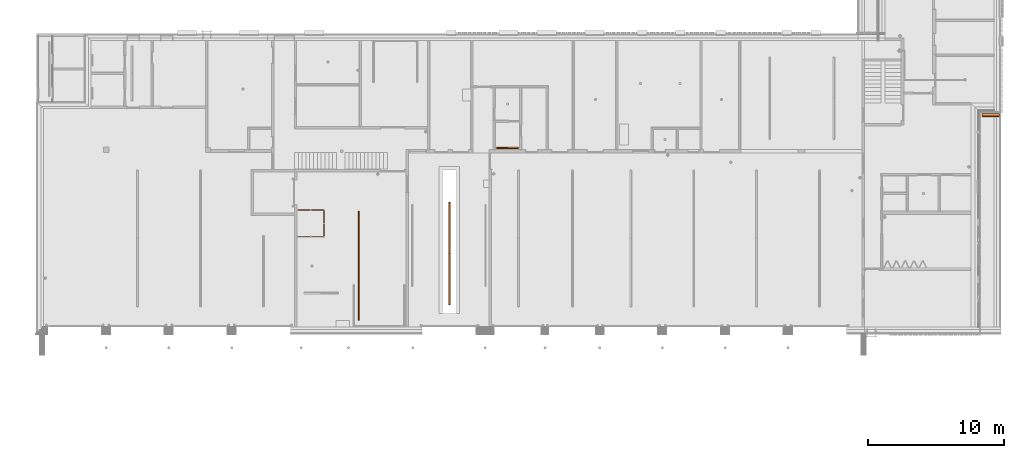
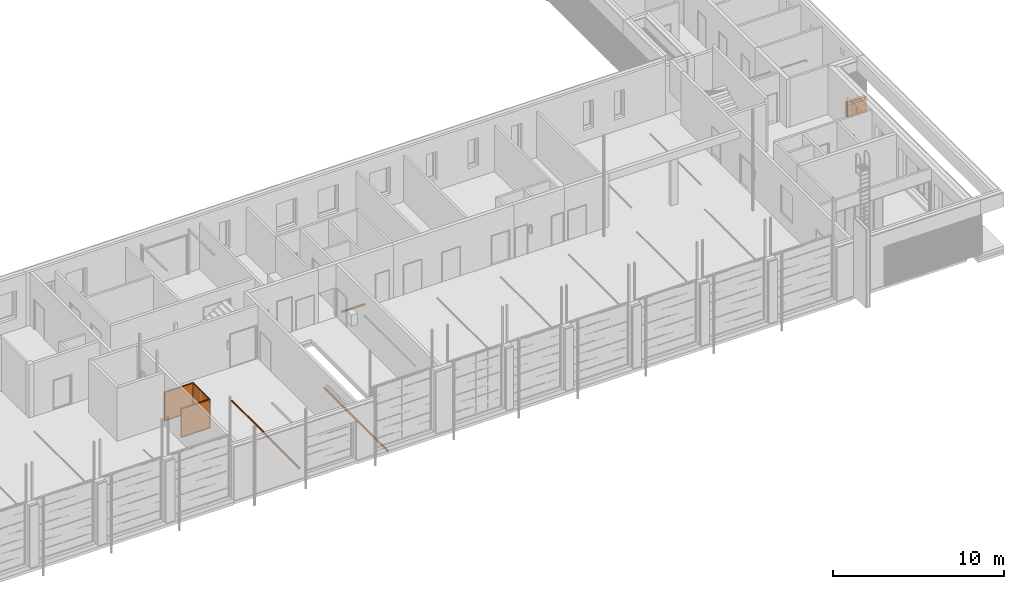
# One storey, part 104 of 112: 5 proxies.
"""IFC2X3 building model written with IfcOpenShell, lengths in millimetres."""

import ifcopenshell
import ifcopenshell.guid

model = None  # the IFC model being written
_history = None  # IfcOwnerHistory: only IFC2X3 demands one
_inside = {}  # id of a spatial element -> (the spatial element, [elements in it])
_under = {}  # id of a project, library or spatial element -> (it, [spatial elements below it])
_declared = {}  # id of a project -> (the project, [libraries it declares])
_typed = {}  # id of a type object -> (the type object, [elements of that type])
_made_of = {}  # id of a material, layer set ... -> (it, [elements and type objects made of it])


def new_model(schema):
    """Start an empty IFC model of exactly this schema.

    Asked for "IFC4X3", IfcOpenShell would pick the latest addendum, in which some entities
    have other attributes; the version numbers below select the first issue.
    IFC2X3 requires an IfcOwnerHistory on every rooted entity: one is made here for all.
    """
    global model, _history
    if schema == "IFC4X3":
        model = ifcopenshell.file(schema_version=(4, 3, 0, 0))
    else:
        model = ifcopenshell.file(schema=schema)
    _inside.clear()
    _under.clear()
    _declared.clear()
    _typed.clear()
    _made_of.clear()
    _history = None
    if model.schema == "IFC2X3":
        org = make("IfcOrganization", Name="unknown")
        user = make(
            "IfcPersonAndOrganization",
            ThePerson=make("IfcPerson", FamilyName="unknown"),
            TheOrganization=org,
        )
        app = make(
            "IfcApplication",
            ApplicationDeveloper=org,
            Version="unknown",
            ApplicationFullName="unknown",
            ApplicationIdentifier="unknown",
        )
        _history = make(
            "IfcOwnerHistory",
            OwningUser=user,
            OwningApplication=app,
            ChangeAction="ADDED",
            CreationDate=0,
        )
    return model


def make(cls, **values):
    """One entity of the class cls with the attributes given. An attribute that is None is left unset."""
    return model.create_entity(
        cls, **{name: value for name, value in values.items() if value is not None}
    )


def entity(cls, *values):
    """Any entity or typed value of the class cls, its attributes in the order of the schema. None: left unset."""
    e = model.create_entity(cls)
    for i, value in enumerate(values):
        if value is not None:
            e[i] = value
    return e


def rooted(cls, **values):
    """An entity with a GlobalId (a new one), such as an element, a storey or a relation."""
    return make(cls, GlobalId=ifcopenshell.guid.new(), OwnerHistory=_history, **values)


def si_unit(unit_type, name, prefix=None):
    """IfcSIUnit, for example si_unit("LENGTHUNIT", "METRE", prefix="MILLI")."""
    return make("IfcSIUnit", UnitType=unit_type, Prefix=prefix, Name=name)


def converted_unit(unit_type, name, factor, base, dimensions=None, offset=None):
    """IfcConversionBasedUnit, such as the inch: factor (a typed value) times the base unit."""
    return make(
        "IfcConversionBasedUnit"
        if offset is None
        else "IfcConversionBasedUnitWithOffset",
        ConversionOffset=offset,
        Dimensions=None
        if dimensions is None
        else entity("IfcDimensionalExponents", *dimensions),
        UnitType=unit_type,
        Name=name,
        ConversionFactor=make(
            "IfcMeasureWithUnit", ValueComponent=factor, UnitComponent=base
        ),
    )


def derived_unit(unit_type, elements):
    """IfcDerivedUnit: a product of units, each with its exponent."""
    return make(
        "IfcDerivedUnit",
        Elements=[
            make("IfcDerivedUnitElement", Unit=unit, Exponent=power)
            for unit, power in elements
        ],
        UnitType=unit_type,
    )


def money_unit(currency):
    """IfcMonetaryUnit."""
    return make("IfcMonetaryUnit", Currency=currency)


def assignment(units):
    """IfcUnitAssignment: the units of a project."""
    return None if units is None else make("IfcUnitAssignment", Units=units)


def point(xyz):
    """IfcCartesianPoint."""
    return None if xyz is None else make("IfcCartesianPoint", Coordinates=xyz)


def direction(xyz):
    """IfcDirection."""
    return None if xyz is None else make("IfcDirection", DirectionRatios=xyz)


def frame(location, z_axis=None, x_axis=None):
    """IfcAxis2Placement3D, a coordinate frame: its origin and axes. An axis left out is left unset."""
    return make(
        "IfcAxis2Placement3D",
        Location=point(location),
        Axis=direction(z_axis),
        RefDirection=direction(x_axis),
    )


def origin_with_axes():
    """The frame at (0, 0, 0) with the z axis (0, 0, 1) and the x axis (1, 0, 0) written out."""
    return frame((0.0, 0.0, 0.0), z_axis=(0.0, 0.0, 1.0), x_axis=(1.0, 0.0, 0.0))


def place(relative_to, where):
    """IfcLocalPlacement: puts the frame where relative to a parent placement (None: the world)."""
    return make(
        "IfcLocalPlacement", PlacementRelTo=relative_to, RelativePlacement=where
    )


def context(
    kind, dimensions, precision=None, world=None, true_north=None, identifier=None
):
    """IfcGeometricRepresentationContext, for example the 3D "Model" context."""
    return make(
        "IfcGeometricRepresentationContext",
        ContextIdentifier=identifier,
        ContextType=kind,
        CoordinateSpaceDimension=dimensions,
        Precision=precision,
        WorldCoordinateSystem=world,
        TrueNorth=true_north,
    )


def subcontext(parent, identifier, kind, view, scale=None):
    """IfcGeometricRepresentationSubContext, for example "Body" below "Model"."""
    return make(
        "IfcGeometricRepresentationSubContext",
        ContextIdentifier=identifier,
        ContextType=kind,
        ParentContext=parent,
        TargetScale=scale,
        TargetView=view,
    )


def project(units=None, contexts=None):
    """IfcProject with its units and contexts."""
    return rooted(
        "IfcProject",
        Name="project",
        RepresentationContexts=contexts,
        UnitsInContext=assignment(units),
    )


def spatial(cls, under=None, at=None, **own):
    """A site, building, storey or space (cls), placed at a placement, below another one or the project."""
    s = rooted(cls, ObjectPlacement=at, **own)
    if under is not None:
        _under.setdefault(under.id(), (under, []))[1].append(s)
    return s


def faces_of(points, faces, orient=None, outer=None):
    """IfcFace entities. A face is a list of loops; a loop is a list of indices into points, from 0.

    orient and outer hold one flag for each loop. By default every Orientation is true, the
    first loop of a face is its IfcFaceOuterBound and the others are IfcFaceBound.
    """
    made = []
    for i, loops in enumerate(faces):
        bounds = []
        for j, loop in enumerate(loops):
            is_outer = j == 0 if outer is None else outer[i][j]
            bounds.append(
                make(
                    "IfcFaceOuterBound" if is_outer else "IfcFaceBound",
                    Bound=make("IfcPolyLoop", Polygon=[points[k] for k in loop]),
                    Orientation=True if orient is None else orient[i][j],
                )
            )
        made.append(make("IfcFace", Bounds=bounds))
    return made


def open_shell(faces, orient=None, outer=None):
    """The faces of one IfcOpenShell. surface_model builds it on its shared points."""
    return ("IfcOpenShell", faces, orient, outer)


def faceted_brep(points, faces, orient=None, outer=None, voids=None):
    """IfcFacetedBrep: a solid bounded by flat faces; with voids (closed shells), ...WithVoids."""
    shared = [point(p) for p in points]
    hull = make("IfcClosedShell", CfsFaces=faces_of(shared, faces, orient, outer))
    if voids is None:
        return make("IfcFacetedBrep", Outer=hull)
    return make(
        "IfcFacetedBrepWithVoids",
        Outer=hull,
        Voids=[
            make(cls, CfsFaces=faces_of(shared, fs, o, b)) for cls, fs, o, b in voids
        ],
    )


def surface_model(cls, points, shells):
    """IfcFaceBasedSurfaceModel or IfcShellBasedSurfaceModel (cls): surfaces that need not close."""
    shared = [point(p) for p in points]
    made = [make(c, CfsFaces=faces_of(shared, fs, o, b)) for c, fs, o, b in shells]
    if cls == "IfcFaceBasedSurfaceModel":
        return make(cls, FbsmFaces=made)
    return make(cls, SbsmBoundary=made)


def shape(context_of_items, identifier, shape_type, items):
    """IfcShapeRepresentation: the items that make up one representation, for example the "Body"."""
    return make(
        "IfcShapeRepresentation",
        ContextOfItems=context_of_items,
        RepresentationIdentifier=identifier,
        RepresentationType=shape_type,
        Items=items,
    )


def made_of(thing, what):
    """Note that an element or type object is made of a material, layer set ...; save() writes the relation."""
    if what is not None:
        _made_of.setdefault(what.id(), (what, []))[1].append(thing)
    return thing


def type_object(cls, material=None, **own):
    """A type object (cls), such as IfcWallType, which elements share."""
    return made_of(rooted(cls, **own), material)


def element(
    cls,
    number,
    at=None,
    inside=None,
    cuts=None,
    type_object=None,
    material=None,
    context=None,
    identifier="Body",
    shape_type=None,
    held_by="IfcProductDefinitionShape",
    body=None,
    shapes=None,
    **own,
):
    """One element of the class cls, such as IfcWall. Its Tag is "e" and its number.

    at: its placement. inside: the storey or other place that contains it. cuts: it is an
    opening in that element (IfcRelVoidsElement). A single representation is given by context,
    identifier, shape_type and body (its items); several are given by shapes. held_by: the class
    of the entity that holds the representations. save() writes the other relations.
    """
    e = rooted(cls, Tag="e%d" % number, ObjectPlacement=at, **own)
    if body is not None:
        shapes = [shape(context, identifier, shape_type, body)]
    if shapes is not None:
        e.Representation = make(held_by, Representations=shapes)
    if inside is not None:
        _inside.setdefault(inside.id(), (inside, []))[1].append(e)
    if cuts is not None:
        rooted(
            "IfcRelVoidsElement", RelatingBuildingElement=cuts, RelatedOpeningElement=e
        )
    if type_object is not None:
        _typed.setdefault(type_object.id(), (type_object, []))[1].append(e)
    return made_of(e, material)


def aggregate(whole, parts):
    """IfcRelAggregates: a whole, such as a stair, and the parts it consists of."""
    return rooted("IfcRelAggregates", RelatingObject=whole, RelatedObjects=parts)


def save(model, path):
    """Write the relations noted so far, then the file.

    IfcRelAggregates (storeys below a building ...), IfcRelContainedInSpatialStructure (elements
    in a storey), IfcRelDefinesByType, IfcRelAssociatesMaterial and IfcRelDeclares: one each for
    every whole, place, type object, material and project.
    """
    for whole, parts in _under.values():
        aggregate(whole, parts)
    for where, things in _inside.values():
        rooted(
            "IfcRelContainedInSpatialStructure",
            RelatedElements=things,
            RelatingStructure=where,
        )
    for kind, things in _typed.values():
        rooted("IfcRelDefinesByType", RelatedObjects=things, RelatingType=kind)
    for what, things in _made_of.values():
        rooted("IfcRelAssociatesMaterial", RelatedObjects=things, RelatingMaterial=what)
    for by, libraries in _declared.values():
        rooted("IfcRelDeclares", RelatingContext=by, RelatedDefinitions=libraries)
    model.write(path)


model = new_model("IFC2X3")

# Units and contexts
model_context = context("Model", 3, precision=0.01, world=origin_with_axes(), true_north=direction((0.0, 1.0)))
body_context = subcontext(model_context, "Body", "Model", "MODEL_VIEW")
ifc_project = project(units=[si_unit("LENGTHUNIT", "METRE", prefix="MILLI"), si_unit("AREAUNIT", "SQUARE_METRE"), si_unit("VOLUMEUNIT", "CUBIC_METRE"), converted_unit("PLANEANGLEUNIT", "DEGREE", entity("IfcPlaneAngleMeasure", 0.0174532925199), si_unit("PLANEANGLEUNIT", "RADIAN"), dimensions=[0, 0, 0, 0, 0, 0, 0]), si_unit("SOLIDANGLEUNIT", "STERADIAN"), money_unit("EUR"), converted_unit("TIMEUNIT", "Year", entity("IfcTimeMeasure", 31556926.0), si_unit("TIMEUNIT", "SECOND"), dimensions=[0, 0, 1, 0, 0, 0, 0]), si_unit("MASSUNIT", "GRAM", prefix="KILO"), si_unit("THERMODYNAMICTEMPERATUREUNIT", "DEGREE_CELSIUS"), si_unit("LUMINOUSINTENSITYUNIT", "LUMEN"), si_unit("ENERGYUNIT", "JOULE", prefix="MEGA"), derived_unit("THERMALCONDUCTANCEUNIT", [(si_unit("POWERUNIT", "WATT"), 1), (si_unit("LENGTHUNIT", "METRE"), -1), (si_unit("THERMODYNAMICTEMPERATUREUNIT", "KELVIN"), -1)]), derived_unit("SPECIFICHEATCAPACITYUNIT", [(si_unit("ENERGYUNIT", "JOULE"), 1), (si_unit("MASSUNIT", "GRAM", prefix="KILO"), -1), (si_unit("THERMODYNAMICTEMPERATUREUNIT", "KELVIN"), -1)]), derived_unit("MASSDENSITYUNIT", [(si_unit("MASSUNIT", "GRAM", prefix="KILO"), 1), (si_unit("VOLUMEUNIT", "CUBIC_METRE"), -1)])], contexts=[model_context])

# Site, building, storey
site_placement = place(None, origin_with_axes())
site = spatial("IfcSite", under=ifc_project, at=site_placement, Name="Politse- ja Piirivalveameti ning Päästeameti ühishoone", CompositionType="ELEMENT")
building_placement = place(site_placement, origin_with_axes())
building = spatial("IfcBuilding", under=site, at=building_placement, Name="Politse- ja Piirivalveameti ning Päästeameti ühishoone", CompositionType="ELEMENT")
storey_placement = place(building_placement, origin_with_axes())
storey = spatial("IfcBuildingStorey", under=building, at=storey_placement, Name="Esimene korrus", CompositionType="ELEMENT", Elevation=0.0)

# Proxies
building_element_proxy_type_1 = type_object("IfcBuildingElementProxyType", Name="Grid 23", PredefinedType="NOTDEFINED")
proxy_1_placement = place(storey_placement, frame((23058.9515193, 497.35908012, -100.0), z_axis=(0.0, 0.0, 1.0), x_axis=(1.0, 0.0, 0.0)))
element("IfcBuildingElementProxy", 1, at=proxy_1_placement, inside=storey, type_object=building_element_proxy_type_1, Name="Äravoolurenn (109)", context=body_context, shape_type="Brep", body=[
    faceted_brep([(0.0, 0.0, 0.0), (5.0, 5.0, 0.0), (5.0, 5.0, 100.0), (0.0, 0.0, 100.0), (0.0, 8000.0, 0.0), (5.0, 7995.0, 0.0), (5.0, 4001.0, 0.0), (5.0, 3999.0, 0.0), (5.0, 3999.0, 100.0), (5.0, 4001.0, 100.0), (5.0, 7995.0, 100.0), (0.0, 8000.0, 100.0)], [[[0, 1, 2, 3]], [[0, 4, 5, 6, 7, 1]], [[1, 7, 8, 2]], [[3, 2, 8, 9, 10, 11]], [[4, 0, 3, 11]], [[5, 4, 11, 10]], [[6, 5, 10, 9]], [[7, 6, 9, 8]]]),
    faceted_brep([(100.0, 8000.0, 0.0), (95.0, 7995.0, 0.0), (95.0, 7995.0, 100.0), (100.0, 8000.0, 100.0), (100.0, 0.0, 0.0), (95.0, 5.0, 0.0), (95.0, 3999.0, 0.0), (95.0, 4001.0, 0.0), (95.0, 4001.0, 100.0), (95.0, 3999.0, 100.0), (95.0, 5.0, 100.0), (100.0, 0.0, 100.0)], [[[0, 1, 2, 3]], [[0, 4, 5, 6, 7, 1]], [[1, 7, 8, 2]], [[3, 2, 8, 9, 10, 11]], [[4, 0, 3, 11]], [[5, 4, 11, 10]], [[6, 5, 10, 9]], [[7, 6, 9, 8]]]),
    faceted_brep([(100.0, 0.0, 0.0), (95.0, 5.0, 0.0), (95.0, 5.0, 100.0), (100.0, 0.0, 100.0), (0.0, 0.0, 0.0), (5.0, 5.0, 0.0), (33.1666666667, 5.0, 0.0), (35.1666666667, 5.0, 0.0), (64.8333333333, 5.0, 0.0), (66.8333333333, 5.0, 0.0), (66.8333333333, 5.0, 100.0), (64.8333333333, 5.0, 100.0), (35.1666666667, 5.0, 100.0), (33.1666666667, 5.0, 100.0), (5.0, 5.0, 100.0), (0.0, 0.0, 100.0)], [[[0, 1, 2, 3]], [[0, 4, 5, 6, 7, 8, 9, 1]], [[1, 9, 10, 2]], [[3, 2, 10, 11, 12, 13, 14, 15]], [[4, 0, 3, 15]], [[5, 4, 15, 14]], [[6, 5, 14, 13]], [[7, 6, 13, 12]], [[8, 7, 12, 11]], [[9, 8, 11, 10]]]),
    faceted_brep([(0.0, 8000.0, 0.0), (5.0, 7995.0, 0.0), (5.0, 7995.0, 100.0), (0.0, 8000.0, 100.0), (100.0, 8000.0, 0.0), (95.0, 7995.0, 0.0), (66.8333333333, 7995.0, 0.0), (64.8333333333, 7995.0, 0.0), (35.1666666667, 7995.0, 0.0), (33.1666666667, 7995.0, 0.0), (33.1666666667, 7995.0, 100.0), (35.1666666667, 7995.0, 100.0), (64.8333333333, 7995.0, 100.0), (66.8333333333, 7995.0, 100.0), (95.0, 7995.0, 100.0), (100.0, 8000.0, 100.0)], [[[0, 1, 2, 3]], [[0, 4, 5, 6, 7, 8, 9, 1]], [[1, 9, 10, 2]], [[3, 2, 10, 11, 12, 13, 14, 15]], [[4, 0, 3, 15]], [[5, 4, 15, 14]], [[6, 5, 14, 13]], [[7, 6, 13, 12]], [[8, 7, 12, 11]], [[9, 8, 11, 10]]]),
    faceted_brep([(33.1666666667, 5.0, 0.0), (35.1666666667, 5.0, 0.0), (35.1666666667, 5.0, 100.0), (33.1666666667, 5.0, 100.0), (33.1666666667, 3999.0, 0.0), (33.1666666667, 4001.0, 0.0), (33.1666666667, 7995.0, 0.0), (35.1666666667, 7995.0, 0.0), (35.1666666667, 4001.0, 0.0), (35.1666666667, 3999.0, 0.0), (35.1666666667, 3999.0, 100.0), (35.1666666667, 4001.0, 100.0), (35.1666666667, 7995.0, 100.0), (33.1666666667, 7995.0, 100.0), (33.1666666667, 4001.0, 100.0), (33.1666666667, 3999.0, 100.0)], [[[0, 1, 2, 3]], [[0, 4, 5, 6, 7, 8, 9, 1]], [[1, 9, 10, 2]], [[3, 2, 10, 11, 12, 13, 14, 15]], [[4, 0, 3, 15]], [[5, 4, 15, 14]], [[6, 5, 14, 13]], [[7, 6, 13, 12]], [[8, 7, 12, 11]], [[9, 8, 11, 10]]]),
    faceted_brep([(64.8333333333, 5.0, 0.0), (66.8333333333, 5.0, 0.0), (66.8333333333, 5.0, 100.0), (64.8333333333, 5.0, 100.0), (64.8333333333, 3999.0, 0.0), (64.8333333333, 4001.0, 0.0), (64.8333333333, 7995.0, 0.0), (66.8333333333, 7995.0, 0.0), (66.8333333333, 4001.0, 0.0), (66.8333333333, 3999.0, 0.0), (66.8333333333, 3999.0, 100.0), (66.8333333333, 4001.0, 100.0), (66.8333333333, 7995.0, 100.0), (64.8333333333, 7995.0, 100.0), (64.8333333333, 4001.0, 100.0), (64.8333333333, 3999.0, 100.0)], [[[0, 1, 2, 3]], [[0, 4, 5, 6, 7, 8, 9, 1]], [[1, 9, 10, 2]], [[3, 2, 10, 11, 12, 13, 14, 15]], [[4, 0, 3, 15]], [[5, 4, 15, 14]], [[6, 5, 14, 13]], [[7, 6, 13, 12]], [[8, 7, 12, 11]], [[9, 8, 11, 10]]]),
    faceted_brep([(33.1666666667, 3999.0, 0.0), (33.1666666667, 4001.0, 0.0), (33.1666666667, 4001.0, 100.0), (33.1666666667, 3999.0, 100.0), (5.0, 3999.0, 0.0), (5.0, 4001.0, 0.0), (5.0, 4001.0, 100.0), (5.0, 3999.0, 100.0)], [[[0, 1, 2, 3]], [[0, 4, 5, 1]], [[1, 5, 6, 2]], [[3, 2, 6, 7]], [[4, 0, 3, 7]], [[5, 4, 7, 6]]]),
    faceted_brep([(64.8333333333, 3999.0, 0.0), (64.8333333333, 4001.0, 0.0), (64.8333333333, 4001.0, 100.0), (64.8333333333, 3999.0, 100.0), (35.1666666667, 3999.0, 0.0), (35.1666666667, 4001.0, 0.0), (35.1666666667, 4001.0, 100.0), (35.1666666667, 3999.0, 100.0)], [[[0, 1, 2, 3]], [[0, 4, 5, 1]], [[1, 5, 6, 2]], [[3, 2, 6, 7]], [[4, 0, 3, 7]], [[5, 4, 7, 6]]]),
    faceted_brep([(95.0, 3999.0, 0.0), (95.0, 4001.0, 0.0), (95.0, 4001.0, 100.0), (95.0, 3999.0, 100.0), (66.8333333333, 3999.0, 0.0), (66.8333333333, 4001.0, 0.0), (66.8333333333, 4001.0, 100.0), (66.8333333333, 3999.0, 100.0)], [[[0, 1, 2, 3]], [[0, 4, 5, 1]], [[1, 5, 6, 2]], [[3, 2, 6, 7]], [[4, 0, 3, 7]], [[5, 4, 7, 6]]]),
    faceted_brep([(5.0, 5.0, 43.65), (33.1666666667, 5.0, 43.65), (33.1666666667, 5.0, 56.35), (5.0, 5.0, 56.35), (5.0, 3999.0, 43.65), (33.1666666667, 3999.0, 43.65), (33.1666666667, 3999.0, 56.35), (5.0, 3999.0, 56.35)], [[[0, 1, 2, 3]], [[0, 4, 5, 1]], [[1, 5, 6, 2]], [[3, 2, 6, 7]], [[4, 0, 3, 7]], [[5, 4, 7, 6]]]),
    faceted_brep([(5.0, 4001.0, 43.65), (33.1666666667, 4001.0, 43.65), (33.1666666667, 4001.0, 56.35), (5.0, 4001.0, 56.35), (5.0, 7995.0, 43.65), (33.1666666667, 7995.0, 43.65), (33.1666666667, 7995.0, 56.35), (5.0, 7995.0, 56.35)], [[[0, 1, 2, 3]], [[0, 4, 5, 1]], [[1, 5, 6, 2]], [[3, 2, 6, 7]], [[4, 0, 3, 7]], [[5, 4, 7, 6]]]),
    faceted_brep([(35.1666666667, 5.0, 43.65), (64.8333333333, 5.0, 43.65), (64.8333333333, 5.0, 56.35), (35.1666666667, 5.0, 56.35), (35.1666666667, 3999.0, 43.65), (64.8333333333, 3999.0, 43.65), (64.8333333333, 3999.0, 56.35), (35.1666666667, 3999.0, 56.35)], [[[0, 1, 2, 3]], [[0, 4, 5, 1]], [[1, 5, 6, 2]], [[3, 2, 6, 7]], [[4, 0, 3, 7]], [[5, 4, 7, 6]]]),
    faceted_brep([(35.1666666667, 4001.0, 43.65), (64.8333333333, 4001.0, 43.65), (64.8333333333, 4001.0, 56.35), (35.1666666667, 4001.0, 56.35), (35.1666666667, 7995.0, 43.65), (64.8333333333, 7995.0, 43.65), (64.8333333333, 7995.0, 56.35), (35.1666666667, 7995.0, 56.35)], [[[0, 1, 2, 3]], [[0, 4, 5, 1]], [[1, 5, 6, 2]], [[3, 2, 6, 7]], [[4, 0, 3, 7]], [[5, 4, 7, 6]]]),
    faceted_brep([(66.8333333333, 5.0, 43.65), (95.0, 5.0, 43.65), (95.0, 5.0, 56.35), (66.8333333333, 5.0, 56.35), (66.8333333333, 3999.0, 43.65), (95.0, 3999.0, 43.65), (95.0, 3999.0, 56.35), (66.8333333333, 3999.0, 56.35)], [[[0, 1, 2, 3]], [[0, 4, 5, 1]], [[1, 5, 6, 2]], [[3, 2, 6, 7]], [[4, 0, 3, 7]], [[5, 4, 7, 6]]]),
    faceted_brep([(66.8333333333, 4001.0, 43.65), (95.0, 4001.0, 43.65), (95.0, 4001.0, 56.35), (66.8333333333, 4001.0, 56.35), (66.8333333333, 7995.0, 43.65), (95.0, 7995.0, 43.65), (95.0, 7995.0, 56.35), (66.8333333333, 7995.0, 56.35)], [[[0, 1, 2, 3]], [[0, 4, 5, 1]], [[1, 5, 6, 2]], [[3, 2, 6, 7]], [[4, 0, 3, 7]], [[5, 4, 7, 6]]]),
])
proxy_2_placement = place(storey_placement, frame((29711.9394728, 1635.2911514, -1899.53811428), z_axis=(0.0, 0.0, 1.0), x_axis=(1.0, 0.0, 0.0)))
element("IfcBuildingElementProxy", 2, at=proxy_2_placement, inside=storey, type_object=building_element_proxy_type_1, Name="Äravoolurenn (110)", context=body_context, shape_type="Brep", body=[
    faceted_brep([(0.0, 0.0, 0.0), (5.0, 5.0, 0.0), (5.0, 5.0, 100.0), (0.0, 0.0, 100.0), (0.0, 7500.0, 0.0), (5.0, 7495.0, 0.0), (5.0, 3751.0, 0.0), (5.0, 3749.0, 0.0), (5.0, 3749.0, 100.0), (5.0, 3751.0, 100.0), (5.0, 7495.0, 100.0), (0.0, 7500.0, 100.0)], [[[0, 1, 2, 3]], [[0, 4, 5, 6, 7, 1]], [[1, 7, 8, 2]], [[3, 2, 8, 9, 10, 11]], [[4, 0, 3, 11]], [[5, 4, 11, 10]], [[6, 5, 10, 9]], [[7, 6, 9, 8]]]),
    faceted_brep([(100.0, 7500.0, 0.0), (95.0, 7495.0, 0.0), (95.0, 7495.0, 100.0), (100.0, 7500.0, 100.0), (100.0, 0.0, 0.0), (95.0, 5.0, 0.0), (95.0, 3749.0, 0.0), (95.0, 3751.0, 0.0), (95.0, 3751.0, 100.0), (95.0, 3749.0, 100.0), (95.0, 5.0, 100.0), (100.0, 0.0, 100.0)], [[[0, 1, 2, 3]], [[0, 4, 5, 6, 7, 1]], [[1, 7, 8, 2]], [[3, 2, 8, 9, 10, 11]], [[4, 0, 3, 11]], [[5, 4, 11, 10]], [[6, 5, 10, 9]], [[7, 6, 9, 8]]]),
    faceted_brep([(100.0, 0.0, 0.0), (95.0, 5.0, 0.0), (95.0, 5.0, 100.0), (100.0, 0.0, 100.0), (0.0, 0.0, 0.0), (5.0, 5.0, 0.0), (33.1666666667, 5.0, 0.0), (35.1666666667, 5.0, 0.0), (64.8333333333, 5.0, 0.0), (66.8333333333, 5.0, 0.0), (66.8333333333, 5.0, 100.0), (64.8333333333, 5.0, 100.0), (35.1666666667, 5.0, 100.0), (33.1666666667, 5.0, 100.0), (5.0, 5.0, 100.0), (0.0, 0.0, 100.0)], [[[0, 1, 2, 3]], [[0, 4, 5, 6, 7, 8, 9, 1]], [[1, 9, 10, 2]], [[3, 2, 10, 11, 12, 13, 14, 15]], [[4, 0, 3, 15]], [[5, 4, 15, 14]], [[6, 5, 14, 13]], [[7, 6, 13, 12]], [[8, 7, 12, 11]], [[9, 8, 11, 10]]]),
    faceted_brep([(0.0, 7500.0, 0.0), (5.0, 7495.0, 0.0), (5.0, 7495.0, 100.0), (0.0, 7500.0, 100.0), (100.0, 7500.0, 0.0), (95.0, 7495.0, 0.0), (66.8333333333, 7495.0, 0.0), (64.8333333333, 7495.0, 0.0), (35.1666666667, 7495.0, 0.0), (33.1666666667, 7495.0, 0.0), (33.1666666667, 7495.0, 100.0), (35.1666666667, 7495.0, 100.0), (64.8333333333, 7495.0, 100.0), (66.8333333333, 7495.0, 100.0), (95.0, 7495.0, 100.0), (100.0, 7500.0, 100.0)], [[[0, 1, 2, 3]], [[0, 4, 5, 6, 7, 8, 9, 1]], [[1, 9, 10, 2]], [[3, 2, 10, 11, 12, 13, 14, 15]], [[4, 0, 3, 15]], [[5, 4, 15, 14]], [[6, 5, 14, 13]], [[7, 6, 13, 12]], [[8, 7, 12, 11]], [[9, 8, 11, 10]]]),
    faceted_brep([(33.1666666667, 5.0, 0.0), (35.1666666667, 5.0, 0.0), (35.1666666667, 5.0, 100.0), (33.1666666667, 5.0, 100.0), (33.1666666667, 3749.0, 0.0), (33.1666666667, 3751.0, 0.0), (33.1666666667, 7495.0, 0.0), (35.1666666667, 7495.0, 0.0), (35.1666666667, 3751.0, 0.0), (35.1666666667, 3749.0, 0.0), (35.1666666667, 3749.0, 100.0), (35.1666666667, 3751.0, 100.0), (35.1666666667, 7495.0, 100.0), (33.1666666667, 7495.0, 100.0), (33.1666666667, 3751.0, 100.0), (33.1666666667, 3749.0, 100.0)], [[[0, 1, 2, 3]], [[0, 4, 5, 6, 7, 8, 9, 1]], [[1, 9, 10, 2]], [[3, 2, 10, 11, 12, 13, 14, 15]], [[4, 0, 3, 15]], [[5, 4, 15, 14]], [[6, 5, 14, 13]], [[7, 6, 13, 12]], [[8, 7, 12, 11]], [[9, 8, 11, 10]]]),
    faceted_brep([(64.8333333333, 5.0, 0.0), (66.8333333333, 5.0, 0.0), (66.8333333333, 5.0, 100.0), (64.8333333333, 5.0, 100.0), (64.8333333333, 3749.0, 0.0), (64.8333333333, 3751.0, 0.0), (64.8333333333, 7495.0, 0.0), (66.8333333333, 7495.0, 0.0), (66.8333333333, 3751.0, 0.0), (66.8333333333, 3749.0, 0.0), (66.8333333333, 3749.0, 100.0), (66.8333333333, 3751.0, 100.0), (66.8333333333, 7495.0, 100.0), (64.8333333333, 7495.0, 100.0), (64.8333333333, 3751.0, 100.0), (64.8333333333, 3749.0, 100.0)], [[[0, 1, 2, 3]], [[0, 4, 5, 6, 7, 8, 9, 1]], [[1, 9, 10, 2]], [[3, 2, 10, 11, 12, 13, 14, 15]], [[4, 0, 3, 15]], [[5, 4, 15, 14]], [[6, 5, 14, 13]], [[7, 6, 13, 12]], [[8, 7, 12, 11]], [[9, 8, 11, 10]]]),
    faceted_brep([(33.1666666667, 3749.0, 0.0), (33.1666666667, 3751.0, 0.0), (33.1666666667, 3751.0, 100.0), (33.1666666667, 3749.0, 100.0), (5.0, 3749.0, 0.0), (5.0, 3751.0, 0.0), (5.0, 3751.0, 100.0), (5.0, 3749.0, 100.0)], [[[0, 1, 2, 3]], [[0, 4, 5, 1]], [[1, 5, 6, 2]], [[3, 2, 6, 7]], [[4, 0, 3, 7]], [[5, 4, 7, 6]]]),
    faceted_brep([(64.8333333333, 3749.0, 0.0), (64.8333333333, 3751.0, 0.0), (64.8333333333, 3751.0, 100.0), (64.8333333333, 3749.0, 100.0), (35.1666666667, 3749.0, 0.0), (35.1666666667, 3751.0, 0.0), (35.1666666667, 3751.0, 100.0), (35.1666666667, 3749.0, 100.0)], [[[0, 1, 2, 3]], [[0, 4, 5, 1]], [[1, 5, 6, 2]], [[3, 2, 6, 7]], [[4, 0, 3, 7]], [[5, 4, 7, 6]]]),
    faceted_brep([(95.0, 3749.0, 0.0), (95.0, 3751.0, 0.0), (95.0, 3751.0, 100.0), (95.0, 3749.0, 100.0), (66.8333333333, 3749.0, 0.0), (66.8333333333, 3751.0, 0.0), (66.8333333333, 3751.0, 100.0), (66.8333333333, 3749.0, 100.0)], [[[0, 1, 2, 3]], [[0, 4, 5, 1]], [[1, 5, 6, 2]], [[3, 2, 6, 7]], [[4, 0, 3, 7]], [[5, 4, 7, 6]]]),
    faceted_brep([(5.0, 5.0, 43.65), (33.1666666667, 5.0, 43.65), (33.1666666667, 5.0, 56.35), (5.0, 5.0, 56.35), (5.0, 3749.0, 43.65), (33.1666666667, 3749.0, 43.65), (33.1666666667, 3749.0, 56.35), (5.0, 3749.0, 56.35)], [[[0, 1, 2, 3]], [[0, 4, 5, 1]], [[1, 5, 6, 2]], [[3, 2, 6, 7]], [[4, 0, 3, 7]], [[5, 4, 7, 6]]]),
    faceted_brep([(5.0, 3751.0, 43.65), (33.1666666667, 3751.0, 43.65), (33.1666666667, 3751.0, 56.35), (5.0, 3751.0, 56.35), (5.0, 7495.0, 43.65), (33.1666666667, 7495.0, 43.65), (33.1666666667, 7495.0, 56.35), (5.0, 7495.0, 56.35)], [[[0, 1, 2, 3]], [[0, 4, 5, 1]], [[1, 5, 6, 2]], [[3, 2, 6, 7]], [[4, 0, 3, 7]], [[5, 4, 7, 6]]]),
    faceted_brep([(35.1666666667, 5.0, 43.65), (64.8333333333, 5.0, 43.65), (64.8333333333, 5.0, 56.35), (35.1666666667, 5.0, 56.35), (35.1666666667, 3749.0, 43.65), (64.8333333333, 3749.0, 43.65), (64.8333333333, 3749.0, 56.35), (35.1666666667, 3749.0, 56.35)], [[[0, 1, 2, 3]], [[0, 4, 5, 1]], [[1, 5, 6, 2]], [[3, 2, 6, 7]], [[4, 0, 3, 7]], [[5, 4, 7, 6]]]),
    faceted_brep([(35.1666666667, 3751.0, 43.65), (64.8333333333, 3751.0, 43.65), (64.8333333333, 3751.0, 56.35), (35.1666666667, 3751.0, 56.35), (35.1666666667, 7495.0, 43.65), (64.8333333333, 7495.0, 43.65), (64.8333333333, 7495.0, 56.35), (35.1666666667, 7495.0, 56.35)], [[[0, 1, 2, 3]], [[0, 4, 5, 1]], [[1, 5, 6, 2]], [[3, 2, 6, 7]], [[4, 0, 3, 7]], [[5, 4, 7, 6]]]),
    faceted_brep([(66.8333333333, 5.0, 43.65), (95.0, 5.0, 43.65), (95.0, 5.0, 56.35), (66.8333333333, 5.0, 56.35), (66.8333333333, 3749.0, 43.65), (95.0, 3749.0, 43.65), (95.0, 3749.0, 56.35), (66.8333333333, 3749.0, 56.35)], [[[0, 1, 2, 3]], [[0, 4, 5, 1]], [[1, 5, 6, 2]], [[3, 2, 6, 7]], [[4, 0, 3, 7]], [[5, 4, 7, 6]]]),
    faceted_brep([(66.8333333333, 3751.0, 43.65), (95.0, 3751.0, 43.65), (95.0, 3751.0, 56.35), (66.8333333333, 3751.0, 56.35), (66.8333333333, 7495.0, 43.65), (95.0, 7495.0, 43.65), (95.0, 7495.0, 56.35), (66.8333333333, 7495.0, 56.35)], [[[0, 1, 2, 3]], [[0, 4, 5, 1]], [[1, 5, 6, 2]], [[3, 2, 6, 7]], [[4, 0, 3, 7]], [[5, 4, 7, 6]]]),
])
proxy_3_placement = place(storey_placement, frame((33207.6090211, 13162.1949238, -100.0), z_axis=(0.0, 0.0, 1.0), x_axis=(0.0, -1.0, 0.0)))
element("IfcBuildingElementProxy", 3, at=proxy_3_placement, inside=storey, type_object=building_element_proxy_type_1, Name="Äravoolurenn (koertekennel)", context=body_context, shape_type="Brep", body=[
    faceted_brep([(0.0, 0.0, 0.0), (5.0, 5.0, 0.0), (5.0, 5.0, 100.0), (0.0, 0.0, 100.0), (0.0, 1600.0, 0.0), (5.0, 1595.0, 0.0), (5.0, 801.0, 0.0), (5.0, 799.0, 0.0), (5.0, 799.0, 100.0), (5.0, 801.0, 100.0), (5.0, 1595.0, 100.0), (0.0, 1600.0, 100.0)], [[[0, 1, 2, 3]], [[0, 4, 5, 6, 7, 1]], [[1, 7, 8, 2]], [[3, 2, 8, 9, 10, 11]], [[4, 0, 3, 11]], [[5, 4, 11, 10]], [[6, 5, 10, 9]], [[7, 6, 9, 8]]]),
    faceted_brep([(100.0, 1600.0, 0.0), (95.0, 1595.0, 0.0), (95.0, 1595.0, 100.0), (100.0, 1600.0, 100.0), (100.0, 0.0, 0.0), (95.0, 5.0, 0.0), (95.0, 799.0, 0.0), (95.0, 801.0, 0.0), (95.0, 801.0, 100.0), (95.0, 799.0, 100.0), (95.0, 5.0, 100.0), (100.0, 0.0, 100.0)], [[[0, 1, 2, 3]], [[0, 4, 5, 6, 7, 1]], [[1, 7, 8, 2]], [[3, 2, 8, 9, 10, 11]], [[4, 0, 3, 11]], [[5, 4, 11, 10]], [[6, 5, 10, 9]], [[7, 6, 9, 8]]]),
    faceted_brep([(100.0, 0.0, 0.0), (95.0, 5.0, 0.0), (95.0, 5.0, 100.0), (100.0, 0.0, 100.0), (0.0, 0.0, 0.0), (5.0, 5.0, 0.0), (33.1666666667, 5.0, 0.0), (35.1666666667, 5.0, 0.0), (64.8333333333, 5.0, 0.0), (66.8333333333, 5.0, 0.0), (66.8333333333, 5.0, 100.0), (64.8333333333, 5.0, 100.0), (35.1666666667, 5.0, 100.0), (33.1666666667, 5.0, 100.0), (5.0, 5.0, 100.0), (0.0, 0.0, 100.0)], [[[0, 1, 2, 3]], [[0, 4, 5, 6, 7, 8, 9, 1]], [[1, 9, 10, 2]], [[3, 2, 10, 11, 12, 13, 14, 15]], [[4, 0, 3, 15]], [[5, 4, 15, 14]], [[6, 5, 14, 13]], [[7, 6, 13, 12]], [[8, 7, 12, 11]], [[9, 8, 11, 10]]]),
    faceted_brep([(0.0, 1600.0, 0.0), (5.0, 1595.0, 0.0), (5.0, 1595.0, 100.0), (0.0, 1600.0, 100.0), (100.0, 1600.0, 0.0), (95.0, 1595.0, 0.0), (66.8333333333, 1595.0, 0.0), (64.8333333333, 1595.0, 0.0), (35.1666666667, 1595.0, 0.0), (33.1666666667, 1595.0, 0.0), (33.1666666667, 1595.0, 100.0), (35.1666666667, 1595.0, 100.0), (64.8333333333, 1595.0, 100.0), (66.8333333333, 1595.0, 100.0), (95.0, 1595.0, 100.0), (100.0, 1600.0, 100.0)], [[[0, 1, 2, 3]], [[0, 4, 5, 6, 7, 8, 9, 1]], [[1, 9, 10, 2]], [[3, 2, 10, 11, 12, 13, 14, 15]], [[4, 0, 3, 15]], [[5, 4, 15, 14]], [[6, 5, 14, 13]], [[7, 6, 13, 12]], [[8, 7, 12, 11]], [[9, 8, 11, 10]]]),
    faceted_brep([(33.1666666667, 5.0, 0.0), (35.1666666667, 5.0, 0.0), (35.1666666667, 5.0, 100.0), (33.1666666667, 5.0, 100.0), (33.1666666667, 799.0, 0.0), (33.1666666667, 801.0, 0.0), (33.1666666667, 1595.0, 0.0), (35.1666666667, 1595.0, 0.0), (35.1666666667, 801.0, 0.0), (35.1666666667, 799.0, 0.0), (35.1666666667, 799.0, 100.0), (35.1666666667, 801.0, 100.0), (35.1666666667, 1595.0, 100.0), (33.1666666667, 1595.0, 100.0), (33.1666666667, 801.0, 100.0), (33.1666666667, 799.0, 100.0)], [[[0, 1, 2, 3]], [[0, 4, 5, 6, 7, 8, 9, 1]], [[1, 9, 10, 2]], [[3, 2, 10, 11, 12, 13, 14, 15]], [[4, 0, 3, 15]], [[5, 4, 15, 14]], [[6, 5, 14, 13]], [[7, 6, 13, 12]], [[8, 7, 12, 11]], [[9, 8, 11, 10]]]),
    faceted_brep([(64.8333333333, 5.0, 0.0), (66.8333333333, 5.0, 0.0), (66.8333333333, 5.0, 100.0), (64.8333333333, 5.0, 100.0), (64.8333333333, 799.0, 0.0), (64.8333333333, 801.0, 0.0), (64.8333333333, 1595.0, 0.0), (66.8333333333, 1595.0, 0.0), (66.8333333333, 801.0, 0.0), (66.8333333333, 799.0, 0.0), (66.8333333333, 799.0, 100.0), (66.8333333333, 801.0, 100.0), (66.8333333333, 1595.0, 100.0), (64.8333333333, 1595.0, 100.0), (64.8333333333, 801.0, 100.0), (64.8333333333, 799.0, 100.0)], [[[0, 1, 2, 3]], [[0, 4, 5, 6, 7, 8, 9, 1]], [[1, 9, 10, 2]], [[3, 2, 10, 11, 12, 13, 14, 15]], [[4, 0, 3, 15]], [[5, 4, 15, 14]], [[6, 5, 14, 13]], [[7, 6, 13, 12]], [[8, 7, 12, 11]], [[9, 8, 11, 10]]]),
    faceted_brep([(33.1666666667, 799.0, 0.0), (33.1666666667, 801.0, 0.0), (33.1666666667, 801.0, 100.0), (33.1666666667, 799.0, 100.0), (5.0, 799.0, 0.0), (5.0, 801.0, 0.0), (5.0, 801.0, 100.0), (5.0, 799.0, 100.0)], [[[0, 1, 2, 3]], [[0, 4, 5, 1]], [[1, 5, 6, 2]], [[3, 2, 6, 7]], [[4, 0, 3, 7]], [[5, 4, 7, 6]]]),
    faceted_brep([(64.8333333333, 799.0, 0.0), (64.8333333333, 801.0, 0.0), (64.8333333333, 801.0, 100.0), (64.8333333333, 799.0, 100.0), (35.1666666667, 799.0, 0.0), (35.1666666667, 801.0, 0.0), (35.1666666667, 801.0, 100.0), (35.1666666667, 799.0, 100.0)], [[[0, 1, 2, 3]], [[0, 4, 5, 1]], [[1, 5, 6, 2]], [[3, 2, 6, 7]], [[4, 0, 3, 7]], [[5, 4, 7, 6]]]),
    faceted_brep([(95.0, 799.0, 0.0), (95.0, 801.0, 0.0), (95.0, 801.0, 100.0), (95.0, 799.0, 100.0), (66.8333333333, 799.0, 0.0), (66.8333333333, 801.0, 0.0), (66.8333333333, 801.0, 100.0), (66.8333333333, 799.0, 100.0)], [[[0, 1, 2, 3]], [[0, 4, 5, 1]], [[1, 5, 6, 2]], [[3, 2, 6, 7]], [[4, 0, 3, 7]], [[5, 4, 7, 6]]]),
    faceted_brep([(5.0, 5.0, 43.65), (33.1666666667, 5.0, 43.65), (33.1666666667, 5.0, 56.35), (5.0, 5.0, 56.35), (5.0, 799.0, 43.65), (33.1666666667, 799.0, 43.65), (33.1666666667, 799.0, 56.35), (5.0, 799.0, 56.35)], [[[0, 1, 2, 3]], [[0, 4, 5, 1]], [[1, 5, 6, 2]], [[3, 2, 6, 7]], [[4, 0, 3, 7]], [[5, 4, 7, 6]]]),
    faceted_brep([(5.0, 801.0, 43.65), (33.1666666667, 801.0, 43.65), (33.1666666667, 801.0, 56.35), (5.0, 801.0, 56.35), (5.0, 1595.0, 43.65), (33.1666666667, 1595.0, 43.65), (33.1666666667, 1595.0, 56.35), (5.0, 1595.0, 56.35)], [[[0, 1, 2, 3]], [[0, 4, 5, 1]], [[1, 5, 6, 2]], [[3, 2, 6, 7]], [[4, 0, 3, 7]], [[5, 4, 7, 6]]]),
    faceted_brep([(35.1666666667, 5.0, 43.65), (64.8333333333, 5.0, 43.65), (64.8333333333, 5.0, 56.35), (35.1666666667, 5.0, 56.35), (35.1666666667, 799.0, 43.65), (64.8333333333, 799.0, 43.65), (64.8333333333, 799.0, 56.35), (35.1666666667, 799.0, 56.35)], [[[0, 1, 2, 3]], [[0, 4, 5, 1]], [[1, 5, 6, 2]], [[3, 2, 6, 7]], [[4, 0, 3, 7]], [[5, 4, 7, 6]]]),
    faceted_brep([(35.1666666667, 801.0, 43.65), (64.8333333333, 801.0, 43.65), (64.8333333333, 801.0, 56.35), (35.1666666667, 801.0, 56.35), (35.1666666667, 1595.0, 43.65), (64.8333333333, 1595.0, 43.65), (64.8333333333, 1595.0, 56.35), (35.1666666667, 1595.0, 56.35)], [[[0, 1, 2, 3]], [[0, 4, 5, 1]], [[1, 5, 6, 2]], [[3, 2, 6, 7]], [[4, 0, 3, 7]], [[5, 4, 7, 6]]]),
    faceted_brep([(66.8333333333, 5.0, 43.65), (95.0, 5.0, 43.65), (95.0, 5.0, 56.35), (66.8333333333, 5.0, 56.35), (66.8333333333, 799.0, 43.65), (95.0, 799.0, 43.65), (95.0, 799.0, 56.35), (66.8333333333, 799.0, 56.35)], [[[0, 1, 2, 3]], [[0, 4, 5, 1]], [[1, 5, 6, 2]], [[3, 2, 6, 7]], [[4, 0, 3, 7]], [[5, 4, 7, 6]]]),
    faceted_brep([(66.8333333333, 801.0, 43.65), (95.0, 801.0, 43.65), (95.0, 801.0, 56.35), (66.8333333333, 801.0, 56.35), (66.8333333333, 1595.0, 43.65), (95.0, 1595.0, 43.65), (95.0, 1595.0, 56.35), (66.8333333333, 1595.0, 56.35)], [[[0, 1, 2, 3]], [[0, 4, 5, 1]], [[1, 5, 6, 2]], [[3, 2, 6, 7]], [[4, 0, 3, 7]], [[5, 4, 7, 6]]]),
])
building_element_proxy_type_2 = type_object("IfcBuildingElementProxyType", Name="Waste Receptacle 23", PredefinedType="NOTDEFINED")
proxy_4_placement = place(storey_placement, frame((70070.5664257, 15468.3293334, 0.0), z_axis=(0.0, 0.0, 1.0), x_axis=(1.0, 1.30049800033e-07, 0.0)))
element("IfcBuildingElementProxy", 4, at=proxy_4_placement, inside=storey, type_object=building_element_proxy_type_2, Name="Prügikast", context=body_context, shape_type="Brep", body=[
    faceted_brep([(0.0, 200.0, 0.0), (0.0, 0.0, 0.0), (-1310.0, 0.0, 0.0), (-1310.0, 200.0, 0.0), (0.0, 200.0, 1020.0), (0.0, 0.0, 1020.0), (-1310.0, 0.0, 1020.0), (-4.0, 0.0, 4.0), (-1306.0, 0.0, 4.0), (-1306.0, 0.0, 1016.0), (-4.0, 0.0, 1016.0), (-1310.0, 200.0, 1020.0), (-4.0, 200.0, 4.0), (-4.0, 200.0, 1016.0), (-1306.0, 200.0, 1016.0), (-1306.0, 200.0, 4.0)], [[[0, 1, 2, 3]], [[4, 5, 1, 0]], [[1, 5, 6, 2], [7, 8, 9, 10]], [[3, 2, 6, 11]], [[0, 3, 11, 4], [12, 13, 14, 15]], [[11, 6, 5, 4]], [[15, 8, 7, 12]], [[14, 9, 8, 15]], [[13, 10, 9, 14]], [[12, 7, 10, 13]]]),
    faceted_brep([(-4.0, 200.0, 4.0), (-4.0, 196.0, 4.0), (-1306.0, 196.0, 4.0), (-1306.0, 200.0, 4.0), (-4.0, 200.0, 1016.0), (-4.0, 196.0, 1016.0), (-1306.0, 196.0, 1016.0), (-1306.0, 200.0, 1016.0)], [[[0, 1, 2, 3]], [[4, 5, 1, 0]], [[1, 5, 6, 2]], [[3, 2, 6, 7]], [[0, 3, 7, 4]], [[7, 6, 5, 4]]]),
    faceted_brep([(20.0, 0.0, -20.0), (20.0, -5.0, -20.0), (-1330.0, -5.0, -20.0), (-1330.0, 0.0, -20.0), (20.0, 0.0, 1040.0), (20.0, -5.0, 1040.0), (-1330.0, -5.0, 1040.0), (-4.0, -5.0, 4.0), (-1306.0, -5.0, 4.0), (-1306.0, -5.0, 1016.0), (-4.0, -5.0, 1016.0), (-1330.0, 0.0, 1040.0), (-4.0, 0.0, 4.0), (-4.0, 0.0, 1016.0), (-1306.0, 0.0, 1016.0), (-1306.0, 0.0, 4.0)], [[[0, 1, 2, 3]], [[4, 5, 1, 0]], [[1, 5, 6, 2], [7, 8, 9, 10]], [[3, 2, 6, 11]], [[0, 3, 11, 4], [12, 13, 14, 15]], [[11, 6, 5, 4]], [[15, 8, 7, 12]], [[14, 9, 8, 15]], [[13, 10, 9, 14]], [[12, 7, 10, 13]]]),
    faceted_brep([(-4.0, -34.0, 4.0), (-4.0, -34.0, 874.0), (-7.04481869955, -49.3073372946, 874.0), (-7.04481869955, -49.3073372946, 4.0), (-4.0, 196.0, 4.0), (-4.0, 196.0, 874.0), (-1306.0, 196.0, 874.0), (-1306.0, -34.0, 874.0), (-1302.9551813, -49.3073372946, 874.0), (-1294.28427125, -62.2842712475, 874.0), (-1281.30733729, -70.9551813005, 874.0), (-1266.0, -74.0, 874.0), (-44.0, -74.0, 874.0), (-28.6926627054, -70.9551813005, 874.0), (-15.7157287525, -62.2842712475, 874.0), (-10.0, -34.0, 874.0), (-12.5880958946, -47.0112367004, 874.0), (-19.9583694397, -58.0416305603, 874.0), (-30.9887632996, -65.4119041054, 874.0), (-44.0, -68.0, 874.0), (-1266.0, -68.0, 874.0), (-1279.0112367, -65.4119041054, 874.0), (-1290.04163056, -58.0416305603, 874.0), (-1297.41190411, -47.0112367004, 874.0), (-1300.0, -34.0, 874.0), (-1300.0, 190.0, 874.0), (-10.0, 190.0, 874.0), (-15.7157287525, -62.2842712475, 4.0), (-28.6926627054, -70.9551813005, 4.0), (-44.0, -74.0, 4.0), (-1266.0, -74.0, 4.0), (-1281.30733729, -70.9551813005, 4.0), (-1294.28427125, -62.2842712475, 4.0), (-1302.9551813, -49.3073372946, 4.0), (-1306.0, -34.0, 4.0), (-1306.0, 196.0, 4.0), (-10.0, -34.0, 4.0), (-10.0, 190.0, 4.0), (-1300.0, 190.0, 4.0), (-1300.0, -34.0, 4.0), (-1297.41190411, -47.0112367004, 4.0), (-1290.04163056, -58.0416305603, 4.0), (-1279.0112367, -65.4119041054, 4.0), (-1266.0, -68.0, 4.0), (-44.0, -68.0, 4.0), (-30.9887632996, -65.4119041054, 4.0), (-19.9583694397, -58.0416305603, 4.0), (-12.5880958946, -47.0112367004, 4.0)], [[[0, 1, 2, 3]], [[4, 5, 1, 0]], [[1, 5, 6, 7, 8, 9, 10, 11, 12, 13, 14, 2], [15, 16, 17, 18, 19, 20, 21, 22, 23, 24, 25, 26]], [[3, 2, 14, 27]], [[0, 3, 27, 28, 29, 30, 31, 32, 33, 34, 35, 4], [36, 37, 38, 39, 40, 41, 42, 43, 44, 45, 46, 47]], [[35, 6, 5, 4]], [[34, 7, 6, 35]], [[33, 8, 7, 34]], [[32, 9, 8, 33]], [[31, 10, 9, 32]], [[30, 11, 10, 31]], [[29, 12, 11, 30]], [[28, 13, 12, 29]], [[27, 14, 13, 28]], [[47, 16, 15, 36]], [[46, 17, 16, 47]], [[45, 18, 17, 46]], [[44, 19, 18, 45]], [[43, 20, 19, 44]], [[42, 21, 20, 43]], [[41, 22, 21, 42]], [[40, 23, 22, 41]], [[39, 24, 23, 40]], [[38, 25, 24, 39]], [[37, 26, 25, 38]], [[36, 15, 26, 37]]]),
    faceted_brep([(-10.0, -34.0, 4.0), (-10.0, -34.0, 10.0), (-12.5880958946, -47.0112367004, 10.0), (-12.5880958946, -47.0112367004, 4.0), (-10.0, 190.0, 4.0), (-10.0, 190.0, 10.0), (-1300.0, 190.0, 10.0), (-1300.0, -34.0, 10.0), (-1297.41190411, -47.0112367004, 10.0), (-1290.04163056, -58.0416305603, 10.0), (-1279.0112367, -65.4119041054, 10.0), (-1266.0, -68.0, 10.0), (-44.0, -68.0, 10.0), (-30.9887632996, -65.4119041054, 10.0), (-19.9583694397, -58.0416305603, 10.0), (-19.9583694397, -58.0416305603, 4.0), (-30.9887632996, -65.4119041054, 4.0), (-44.0, -68.0, 4.0), (-1266.0, -68.0, 4.0), (-1279.0112367, -65.4119041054, 4.0), (-1290.04163056, -58.0416305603, 4.0), (-1297.41190411, -47.0112367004, 4.0), (-1300.0, -34.0, 4.0), (-1300.0, 190.0, 4.0)], [[[0, 1, 2, 3]], [[4, 5, 1, 0]], [[1, 5, 6, 7, 8, 9, 10, 11, 12, 13, 14, 2]], [[3, 2, 14, 15]], [[0, 3, 15, 16, 17, 18, 19, 20, 21, 22, 23, 4]], [[23, 6, 5, 4]], [[22, 7, 6, 23]], [[21, 8, 7, 22]], [[20, 9, 8, 21]], [[19, 10, 9, 20]], [[18, 11, 10, 19]], [[17, 12, 11, 18]], [[16, 13, 12, 17]], [[15, 14, 13, 16]]]),
])
building_element_proxy_type_3 = type_object("IfcBuildingElementProxyType", Name="Shower Door 23", PredefinedType="NOTDEFINED")
proxy_5_placement = place(storey_placement, frame((18590.0881112, 6601.76237191, 0.0), z_axis=(0.0, 0.0, 1.0), x_axis=(1.30049800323e-07, 1.0, 0.0)))
element("IfcBuildingElementProxy", 5, at=proxy_5_placement, inside=storey, type_object=building_element_proxy_type_3, Name="Fassaadiribid", context=body_context, shape_type="SurfaceModel", body=[
    faceted_brep([(0.0, -1949.83126798, 0.0), (1999.99973992, -1949.83126798, 0.0), (1999.99973992, -1999.83126798, 0.0), (0.0, -1999.83126798, 0.0), (0.0, -1949.83126798, 2100.0), (1999.99973992, -1949.83126798, 2100.0), (50.0, -1949.83126798, 50.0), (1949.99973992, -1949.83126798, 50.0), (1949.99973992, -1949.83126798, 2050.0), (50.0, -1949.83126798, 2050.0), (1999.99973992, -1999.83126798, 2100.0), (0.0, -1999.83126798, 2100.0), (50.0, -1999.83126798, 50.0), (50.0, -1999.83126798, 2050.0), (1949.99973992, -1999.83126798, 2050.0), (1949.99973992, -1999.83126798, 50.0)], [[[0, 1, 2, 3]], [[0, 4, 5, 1], [6, 7, 8, 9]], [[1, 5, 10, 2]], [[3, 2, 10, 11], [12, 13, 14, 15]], [[4, 0, 3, 11]], [[5, 4, 11, 10]], [[7, 6, 12, 15]], [[8, 7, 15, 14]], [[9, 8, 14, 13]], [[6, 9, 13, 12]]]),
    faceted_brep([(50.0, -1964.83126798, 50.0), (1949.99973992, -1964.83126798, 50.0), (1949.99973992, -1984.83126798, 50.0), (50.0, -1984.83126798, 50.0), (50.0, -1964.83126798, 2050.0), (1949.99973992, -1964.83126798, 2050.0), (70.0, -1964.83126798, 70.0), (1929.99973992, -1964.83126798, 70.0), (1929.99973992, -1964.83126798, 2030.0), (70.0, -1964.83126798, 2030.0), (1949.99973992, -1984.83126798, 2050.0), (50.0, -1984.83126798, 2050.0), (70.0, -1984.83126798, 70.0), (70.0, -1984.83126798, 2030.0), (1929.99973992, -1984.83126798, 2030.0), (1929.99973992, -1984.83126798, 70.0)], [[[0, 1, 2, 3]], [[0, 4, 5, 1], [6, 7, 8, 9]], [[1, 5, 10, 2]], [[3, 2, 10, 11], [12, 13, 14, 15]], [[4, 0, 3, 11]], [[5, 4, 11, 10]], [[7, 6, 12, 15]], [[8, 7, 15, 14]], [[9, 8, 14, 13]], [[6, 9, 13, 12]]]),
    surface_model("IfcShellBasedSurfaceModel", [(70.0, -1974.83126798, 70.0), (1929.99973992, -1974.83126798, 70.0), (1929.99973992, -1974.83126798, 2030.0), (70.0, -1974.83126798, 2030.0)], [open_shell([[[0, 1, 2, 3]]])]),
    faceted_brep([(50.0, -1949.83126798, 0.0), (50.0, -1949.83126798, 50.0), (0.0, -1949.83126798, 50.0), (0.0, -1949.83126798, 0.0), (50.0, 0.0, 0.0), (50.0, 0.0, 2100.0), (50.0, -1949.83126798, 2100.0), (50.0, -1949.83126798, 2050.0), (50.0, -50.0, 2050.0), (50.0, -50.0, 50.0), (0.0, -50.0, 50.0), (0.0, -50.0, 2050.0), (0.0, -1949.83126798, 2050.0), (0.0, -1949.83126798, 2100.0), (0.0, 0.0, 2100.0), (0.0, 0.0, 0.0)], [[[0, 1, 2, 3]], [[0, 4, 5, 6, 7, 8, 9, 1]], [[1, 9, 10, 2]], [[3, 2, 10, 11, 12, 13, 14, 15]], [[4, 0, 3, 15]], [[5, 4, 15, 14]], [[6, 5, 14, 13]], [[7, 6, 13, 12]], [[8, 7, 12, 11]], [[9, 8, 11, 10]]]),
    surface_model("IfcShellBasedSurfaceModel", [(25.0, -50.0, 50.0), (25.0, -1949.83126798, 50.0), (25.0, -1949.83126798, 2050.0), (25.0, -50.0, 2050.0)], [open_shell([[[0, 1, 2, 3]]])]),
    faceted_brep([(1999.99973992, -1949.83126798, 0.0), (1999.99973992, -1949.83126798, 50.0), (1949.99973992, -1949.83126798, 50.0), (1949.99973992, -1949.83126798, 0.0), (1999.99973992, 0.0, 0.0), (1999.99973992, 0.0, 2100.0), (1999.99973992, -1949.83126798, 2100.0), (1999.99973992, -1949.83126798, 2050.0), (1999.99973992, -50.0, 2050.0), (1999.99973992, -50.0, 50.0), (1949.99973992, -50.0, 50.0), (1949.99973992, -50.0, 2050.0), (1949.99973992, -1949.83126798, 2050.0), (1949.99973992, -1949.83126798, 2100.0), (1949.99973992, 0.0, 2100.0), (1949.99973992, 0.0, 0.0)], [[[0, 1, 2, 3]], [[0, 4, 5, 6, 7, 8, 9, 1]], [[1, 9, 10, 2]], [[3, 2, 10, 11, 12, 13, 14, 15]], [[4, 0, 3, 15]], [[5, 4, 15, 14]], [[6, 5, 14, 13]], [[7, 6, 13, 12]], [[8, 7, 12, 11]], [[9, 8, 11, 10]]]),
    surface_model("IfcShellBasedSurfaceModel", [(1974.99973992, -50.0, 50.0), (1974.99973992, -1949.83126798, 50.0), (1974.99973992, -1949.83126798, 2050.0), (1974.99973992, -50.0, 2050.0)], [open_shell([[[0, 1, 2, 3]]])]),
])

save(model, "model.ifc")
